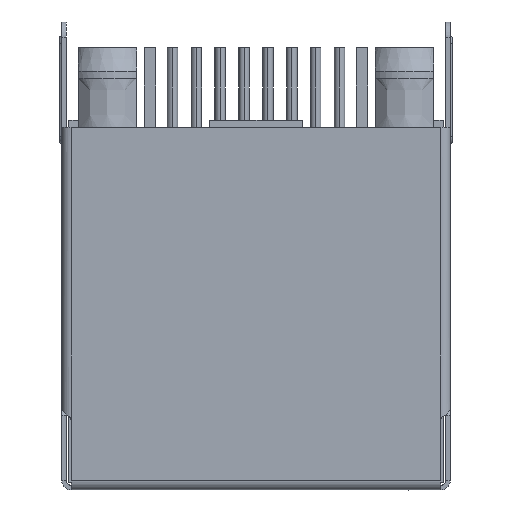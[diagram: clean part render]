
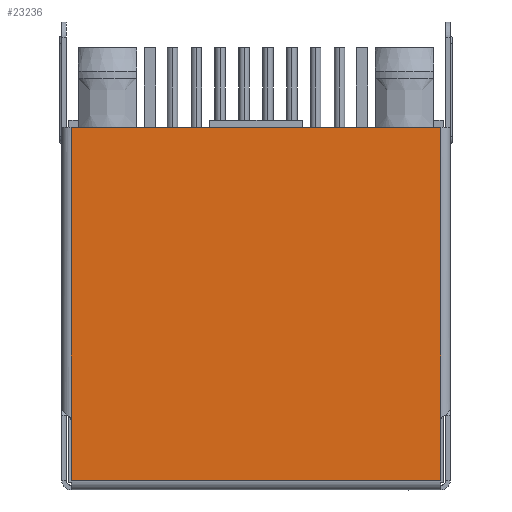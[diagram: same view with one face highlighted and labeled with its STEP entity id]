
A CAD part, front view. The second image highlights one B-rep face of the part: STEP entity #23236.
In plain terms, the highlighted planar face has unit normal (0, -1, 0).
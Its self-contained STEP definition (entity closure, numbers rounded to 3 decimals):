
#17523=DIRECTION('',(1.,0.,0.));
#17524=VECTOR('',#17523,15.8);
#17525=CARTESIAN_POINT('',(-7.9,-6.65,-7.5));
#17526=LINE('',#17525,#17524);
#19117=DIRECTION('',(0.,0.,-1.));
#19118=VECTOR('',#19117,2.583);
#19119=CARTESIAN_POINT('',(-7.9,-6.65,
-4.917));
#19120=LINE('',#19119,#19118);
#19121=DIRECTION('',(0.,0.,-1.));
#19122=VECTOR('',#19121,12.517);
#19123=CARTESIAN_POINT('',(-7.9,-6.65,7.6));
#19124=LINE('',#19123,#19122);
#19336=DIRECTION('',(1.,0.,0.));
#19337=VECTOR('',#19336,15.8);
#19338=CARTESIAN_POINT('',(-7.9,-6.65,7.6));
#19339=LINE('',#19338,#19337);
#19363=DIRECTION('',(0.,0.,1.));
#19364=VECTOR('',#19363,12.517);
#19365=CARTESIAN_POINT('',(7.9,-6.65,
-4.917));
#19366=LINE('',#19365,#19364);
#19385=CARTESIAN_POINT('',(7.9,-6.65,
-4.917));
#19561=DIRECTION('',(0.,0.,1.));
#19562=VECTOR('',#19561,2.583);
#19563=CARTESIAN_POINT('',(7.9,-6.65,-7.5));
#19564=LINE('',#19563,#19562);
#19767=VERTEX_POINT('',#19385);
#19890=CARTESIAN_POINT('',(7.9,-6.65,-7.5));
#19891=VERTEX_POINT('',#19890);
#19894=CARTESIAN_POINT('',(-7.9,-6.65,-7.5));
#19895=VERTEX_POINT('',#19894);
#20247=CARTESIAN_POINT('',(-7.9,-6.65,
-4.917));
#20248=VERTEX_POINT('',#20247);
#20249=CARTESIAN_POINT('',(-7.9,-6.65,7.6));
#20250=VERTEX_POINT('',#20249);
#20251=CARTESIAN_POINT('',(7.9,-6.65,7.6));
#20252=VERTEX_POINT('',#20251);
#23219=CARTESIAN_POINT('',(0.,-6.65,0.05));
#23220=DIRECTION('',(0.,1.,0.));
#23221=DIRECTION('',(0.,0.,1.));
#23222=AXIS2_PLACEMENT_3D('',#23219,#23220,#23221);
#23223=PLANE('',#23222);
#23224=ORIENTED_EDGE('',*,*,#23210,.F.);
#23226=ORIENTED_EDGE('',*,*,#23225,.F.);
#23228=ORIENTED_EDGE('',*,*,#23227,.T.);
#23230=ORIENTED_EDGE('',*,*,#23229,.F.);
#23232=ORIENTED_EDGE('',*,*,#23231,.F.);
#23233=ORIENTED_EDGE('',*,*,#20944,.F.);
#23234=EDGE_LOOP('',(#23224,#23226,#23228,#23230,#23232,#23233));
#23235=FACE_OUTER_BOUND('',#23234,.F.);
#23236=ADVANCED_FACE('',(#23235),#23223,.F.);
#20944=EDGE_CURVE('',#19895,#19891,#17526,.T.);
#23210=EDGE_CURVE('',#20248,#19895,#19120,.T.);
#23225=EDGE_CURVE('',#20250,#20248,#19124,.T.);
#23227=EDGE_CURVE('',#20250,#20252,#19339,.T.);
#23229=EDGE_CURVE('',#19767,#20252,#19366,.T.);
#23231=EDGE_CURVE('',#19891,#19767,#19564,.T.);
